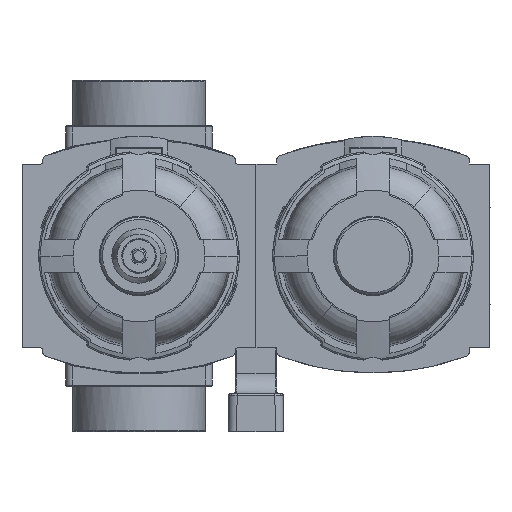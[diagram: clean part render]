
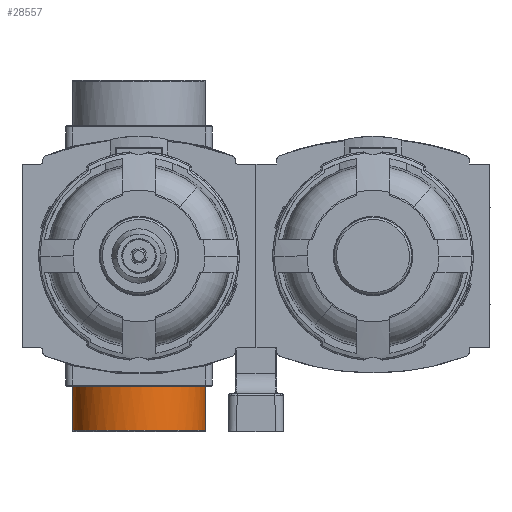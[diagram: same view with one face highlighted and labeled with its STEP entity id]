
A CAD part, front view. The second image highlights one B-rep face of the part: STEP entity #28557.
In plain terms, the highlighted cylindrical face has radius 15.95 mm (diameter 31.9 mm), a partial arc.
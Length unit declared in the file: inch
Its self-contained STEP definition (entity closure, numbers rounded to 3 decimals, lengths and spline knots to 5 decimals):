
#28557=ADVANCED_FACE('',(#33337),#32283,.T.);
#32283=CYLINDRICAL_SURFACE('',#90956,0.62795);
#33337=FACE_OUTER_BOUND('',#50916,.T.);
#37318=LINE('',#108839,#41396);
#37319=LINE('',#108852,#41397);
#41396=VECTOR('',#95029,1.);
#41397=VECTOR('',#95030,1.);
#45781=B_SPLINE_CURVE_WITH_KNOTS('',3,(#108817,#108818,#108819,#108820,#108821,
#108822,#108823,#108824,#108825,#108826),.UNSPECIFIED.,.F.,.F.,(4,2,2,2,
4),(0.,0.25,0.5,0.75,1.),.UNSPECIFIED.);
#45783=B_SPLINE_CURVE_WITH_KNOTS('',3,(#108841,#108842,#108843,#108844,#108845,
#108846,#108847,#108848,#108849,#108850),.UNSPECIFIED.,.F.,.F.,(4,2,2,2,
4),(0.,0.25,0.5,0.75,1.),.UNSPECIFIED.);
#50916=EDGE_LOOP('',(#55399,#55400,#55401,#55402));
#55399=ORIENTED_EDGE('',*,*,#80938,.F.);
#55400=ORIENTED_EDGE('',*,*,#80940,.T.);
#55401=ORIENTED_EDGE('',*,*,#80941,.F.);
#55402=ORIENTED_EDGE('',*,*,#80942,.T.);
#74739=VERTEX_POINT('',#108811);
#74740=VERTEX_POINT('',#108816);
#74741=VERTEX_POINT('',#108840);
#74742=VERTEX_POINT('',#108851);
#80938=EDGE_CURVE('',#74740,#74739,#45781,.T.);
#80940=EDGE_CURVE('',#74740,#74741,#37318,.T.);
#80941=EDGE_CURVE('',#74742,#74741,#45783,.T.);
#80942=EDGE_CURVE('',#74742,#74739,#37319,.T.);
#90956=AXIS2_PLACEMENT_3D('',#108853,#95031,#95032);
#95029=DIRECTION('',(0.,0.,1.));
#95030=DIRECTION('',(0.,0.,-1.));
#95031=DIRECTION('',(0.,0.,1.));
#95032=DIRECTION('',(1.,0.,0.));
#108811=CARTESIAN_POINT('',(-2.83268,1.33858,-1.6437));
#108816=CARTESIAN_POINT('',(-1.57677,1.33858,-1.6437));
#108817=CARTESIAN_POINT('',(-1.57677,1.33858,-1.6437));
#108818=CARTESIAN_POINT('',(-1.57677,1.17419,-1.6437));
#108819=CARTESIAN_POINT('',(-1.64445,1.0108,-1.6437));
#108820=CARTESIAN_POINT('',(-1.87694,0.77831,-1.6437));
#108821=CARTESIAN_POINT('',(-2.04033,0.71063,-1.6437));
#108822=CARTESIAN_POINT('',(-2.36912,0.71063,-1.6437));
#108823=CARTESIAN_POINT('',(-2.53251,0.77831,-1.6437));
#108824=CARTESIAN_POINT('',(-2.765,1.0108,-1.6437));
#108825=CARTESIAN_POINT('',(-2.83268,1.17419,-1.6437));
#108826=CARTESIAN_POINT('',(-2.83268,1.33858,-1.6437));
#108839=CARTESIAN_POINT('',(-1.57677,1.33858,-236222.11614));
#108840=CARTESIAN_POINT('',(-1.57677,1.33858,-1.22835));
#108841=CARTESIAN_POINT('',(-2.83268,1.33858,-1.22835));
#108842=CARTESIAN_POINT('',(-2.83267,1.17382,-1.22835));
#108843=CARTESIAN_POINT('',(-2.76501,1.01082,-1.22835));
#108844=CARTESIAN_POINT('',(-2.5325,0.77829,-1.22835));
#108845=CARTESIAN_POINT('',(-2.36914,0.71064,-1.22835));
#108846=CARTESIAN_POINT('',(-2.04031,0.71062,-1.22835));
#108847=CARTESIAN_POINT('',(-1.87696,0.7783,-1.22835));
#108848=CARTESIAN_POINT('',(-1.64443,1.01081,-1.22835));
#108849=CARTESIAN_POINT('',(-1.57678,1.17376,-1.22835));
#108850=CARTESIAN_POINT('',(-1.57677,1.33858,-1.22835));
#108851=CARTESIAN_POINT('',(-2.83268,1.33858,-1.22835));
#108852=CARTESIAN_POINT('',(-2.83268,1.33858,-236222.11614));
#108853=CARTESIAN_POINT('',(-2.20472,1.33858,-236222.11614));
